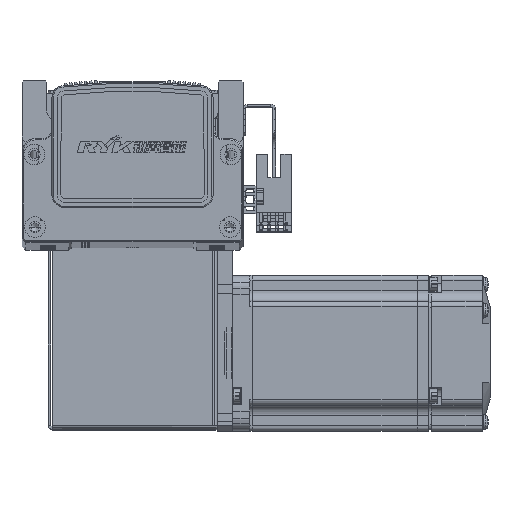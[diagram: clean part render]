
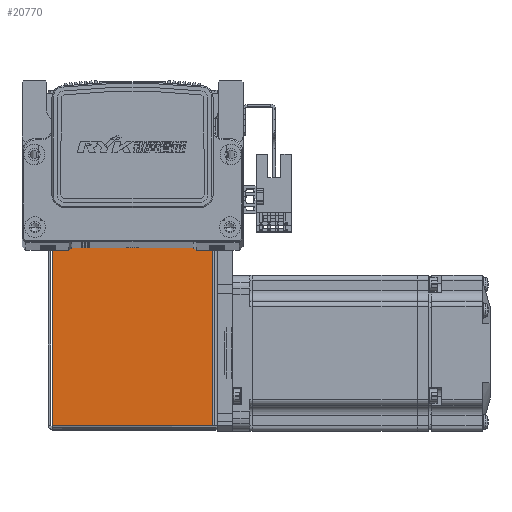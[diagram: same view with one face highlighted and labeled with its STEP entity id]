
A CAD part, top view. The second image highlights one B-rep face of the part: STEP entity #20770.
In plain terms, the highlighted planar face has unit normal (0, 0, 1).
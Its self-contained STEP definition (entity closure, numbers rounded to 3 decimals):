
#4098 = LINE ( 'NONE', #68622, #4107 ) ;
#4107 = VECTOR ( 'NONE', #68624, 1000. ) ;
#4149 = LINE ( 'NONE', #68898, #4177 ) ;
#4177 = VECTOR ( 'NONE', #68874, 1000. ) ;
#4180 = LINE ( 'NONE', #68824, #4236 ) ;
#4199 = VECTOR ( 'NONE', #68931, 1000. ) ;
#4234 = LINE ( 'NONE', #68991, #4199 ) ;
#4236 = VECTOR ( 'NONE', #68885, 1000. ) ;
#17462 = CARTESIAN_POINT ( 'NONE',  ( 30.763, 0.737, 35. ) ) ;
#17465 = CARTESIAN_POINT ( 'NONE',  ( 30.763, 72.5, 35. ) ) ;
#17479 = CARTESIAN_POINT ( 'NONE',  ( -30.793, 72.5, 35. ) ) ;
#17482 = CARTESIAN_POINT ( 'NONE',  ( -30.793, 0.737, 35. ) ) ;
#19795 = ORIENTED_EDGE ( 'NONE', *, *, #28833, .F. ) ;
#19808 = ORIENTED_EDGE ( 'NONE', *, *, #28836, .T. ) ;
#19872 = ORIENTED_EDGE ( 'NONE', *, *, #28857, .T. ) ;
#19884 = ORIENTED_EDGE ( 'NONE', *, *, #28776, .F. ) ;
#20770 = ADVANCED_FACE ( 'NONE', ( #33592 ), #25515, .F. ) ;
#22126 = AXIS2_PLACEMENT_3D ( 'NONE', #25521, #25527, #25541 ) ;
#25515 = PLANE ( 'NONE',  #22126 ) ;
#25521 = CARTESIAN_POINT ( 'NONE',  ( 0., 0., 35. ) ) ;
#25527 = DIRECTION ( 'NONE',  ( 0., 0., -1. ) ) ;
#25541 = DIRECTION ( 'NONE',  ( -1., 0., 0. ) ) ;
#28776 = EDGE_CURVE ( 'NONE', #61820, #61921, #4098, .T. ) ;
#28833 = EDGE_CURVE ( 'NONE', #61921, #61855, #4149, .T. ) ;
#28836 = EDGE_CURVE ( 'NONE', #61914, #61855, #4180, .T. ) ;
#28857 = EDGE_CURVE ( 'NONE', #61820, #61914, #4234, .T. ) ;
#33592 = FACE_OUTER_BOUND ( 'NONE', #64536, .T. ) ;
#61820 = VERTEX_POINT ( 'NONE', #17462 ) ;
#61855 = VERTEX_POINT ( 'NONE', #17479 ) ;
#61914 = VERTEX_POINT ( 'NONE', #17465 ) ;
#61921 = VERTEX_POINT ( 'NONE', #17482 ) ;
#64536 = EDGE_LOOP ( 'NONE', ( #19872, #19808, #19795, #19884 ) ) ;
#68622 = CARTESIAN_POINT ( 'NONE',  ( -32.5, 0.737, 35. ) ) ;
#68624 = DIRECTION ( 'NONE',  ( -1., 0., 0. ) ) ;
#68824 = CARTESIAN_POINT ( 'NONE',  ( 0., 72.5, 35. ) ) ;
#68874 = DIRECTION ( 'NONE',  ( 0., 1., 0. ) ) ;
#68885 = DIRECTION ( 'NONE',  ( -1., 0., 0. ) ) ;
#68898 = CARTESIAN_POINT ( 'NONE',  ( -30.793, 0., 35. ) ) ;
#68931 = DIRECTION ( 'NONE',  ( 0., 1., 0. ) ) ;
#68991 = CARTESIAN_POINT ( 'NONE',  ( 30.763, 0.737, 35. ) ) ;
